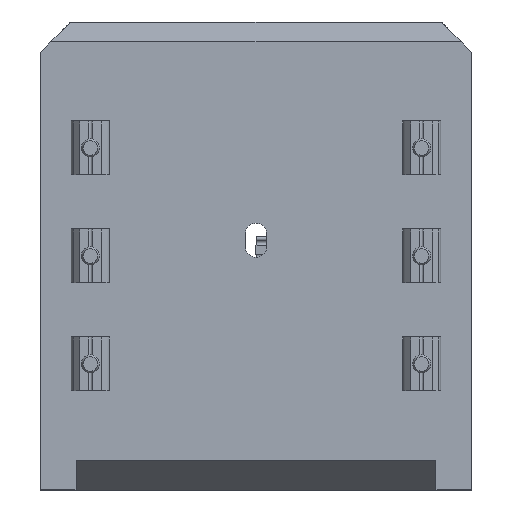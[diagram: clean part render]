
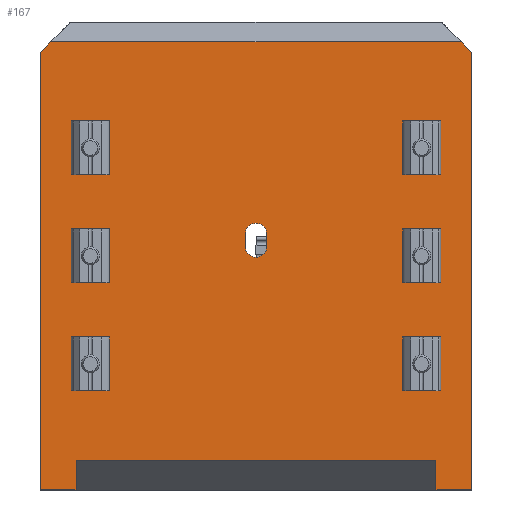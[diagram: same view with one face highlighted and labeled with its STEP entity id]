
A CAD part, top view. The second image highlights one B-rep face of the part: STEP entity #167.
In plain terms, the highlighted planar face has unit normal (0, 0, 1).
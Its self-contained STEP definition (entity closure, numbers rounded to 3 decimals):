
#167 = ADVANCED_FACE( '', ( #377, #378, #379, #380, #381, #382, #383, #384 ), #385, .F. );
#377 = FACE_BOUND( '', #657, .T. );
#378 = FACE_BOUND( '', #658, .T. );
#379 = FACE_BOUND( '', #659, .T. );
#380 = FACE_BOUND( '', #660, .T. );
#381 = FACE_BOUND( '', #661, .T. );
#382 = FACE_BOUND( '', #662, .T. );
#383 = FACE_BOUND( '', #663, .T. );
#384 = FACE_OUTER_BOUND( '', #664, .T. );
#385 = PLANE( '', #665 );
#657 = EDGE_LOOP( '', ( #1080, #1081, #1082, #1083 ) );
#658 = EDGE_LOOP( '', ( #1084 ) );
#659 = EDGE_LOOP( '', ( #1085 ) );
#660 = EDGE_LOOP( '', ( #1086 ) );
#661 = EDGE_LOOP( '', ( #1087 ) );
#662 = EDGE_LOOP( '', ( #1088 ) );
#663 = EDGE_LOOP( '', ( #1089 ) );
#664 = EDGE_LOOP( '', ( #1090, #1091, #1092, #1093, #1094, #1095, #1096, #1097, #1098, #1099 ) );
#665 = AXIS2_PLACEMENT_3D( '', #1100, #1101, #1102 );
#1080 = ORIENTED_EDGE( '', *, *, #1429, .F. );
#1081 = ORIENTED_EDGE( '', *, *, #1345, .F. );
#1082 = ORIENTED_EDGE( '', *, *, #1315, .F. );
#1083 = ORIENTED_EDGE( '', *, *, #1433, .F. );
#1084 = ORIENTED_EDGE( '', *, *, #1416, .F. );
#1085 = ORIENTED_EDGE( '', *, *, #1434, .F. );
#1086 = ORIENTED_EDGE( '', *, *, #1435, .F. );
#1087 = ORIENTED_EDGE( '', *, *, #1410, .F. );
#1088 = ORIENTED_EDGE( '', *, *, #1343, .F. );
#1089 = ORIENTED_EDGE( '', *, *, #1363, .F. );
#1090 = ORIENTED_EDGE( '', *, *, #1378, .T. );
#1091 = ORIENTED_EDGE( '', *, *, #1412, .T. );
#1092 = ORIENTED_EDGE( '', *, *, #1294, .T. );
#1093 = ORIENTED_EDGE( '', *, *, #1436, .F. );
#1094 = ORIENTED_EDGE( '', *, *, #1400, .F. );
#1095 = ORIENTED_EDGE( '', *, *, #1384, .F. );
#1096 = ORIENTED_EDGE( '', *, *, #1329, .T. );
#1097 = ORIENTED_EDGE( '', *, *, #1437, .T. );
#1098 = ORIENTED_EDGE( '', *, *, #1398, .F. );
#1099 = ORIENTED_EDGE( '', *, *, #1438, .F. );
#1100 = CARTESIAN_POINT( '', ( 66.696, -321.5, 10. ) );
#1101 = DIRECTION( '', ( 0., 0., -1. ) );
#1102 = DIRECTION( '', ( 0., 1., 0. ) );
#1294 = EDGE_CURVE( '', #1517, #1518, #1519, .F. );
#1315 = EDGE_CURVE( '', #1555, #1557, #1558, .T. );
#1329 = EDGE_CURVE( '', #1581, #1582, #1583, .T. );
#1343 = EDGE_CURVE( '', #1604, #1604, #1605, .F. );
#1345 = EDGE_CURVE( '', #1557, #1607, #1608, .F. );
#1363 = EDGE_CURVE( '', #1636, #1636, #1637, .F. );
#1378 = EDGE_CURVE( '', #1660, #1661, #1662, .F. );
#1384 = EDGE_CURVE( '', #1581, #1669, #1670, .T. );
#1398 = EDGE_CURVE( '', #1689, #1691, #1692, .T. );
#1400 = EDGE_CURVE( '', #1669, #1694, #1695, .T. );
#1410 = EDGE_CURVE( '', #1709, #1709, #1710, .F. );
#1412 = EDGE_CURVE( '', #1661, #1517, #1712, .T. );
#1416 = EDGE_CURVE( '', #1717, #1717, #1718, .F. );
#1429 = EDGE_CURVE( '', #1607, #1737, #1738, .T. );
#1433 = EDGE_CURVE( '', #1737, #1555, #1742, .F. );
#1434 = EDGE_CURVE( '', #1743, #1743, #1744, .F. );
#1435 = EDGE_CURVE( '', #1745, #1745, #1746, .F. );
#1436 = EDGE_CURVE( '', #1694, #1518, #1747, .T. );
#1437 = EDGE_CURVE( '', #1582, #1691, #1748, .T. );
#1438 = EDGE_CURVE( '', #1660, #1689, #1749, .T. );
#1517 = VERTEX_POINT( '', #1983 );
#1518 = VERTEX_POINT( '', #1984 );
#1519 = LINE( '', #1985, #1986 );
#1555 = VERTEX_POINT( '', #2063 );
#1557 = VERTEX_POINT( '', #2066 );
#1558 = LINE( '', #2067, #2068 );
#1581 = VERTEX_POINT( '', #2097 );
#1582 = VERTEX_POINT( '', #2098 );
#1583 = LINE( '', #2099, #2100 );
#1604 = VERTEX_POINT( '', #2127 );
#1605 = CIRCLE( '', #2128, 2.6 );
#1607 = VERTEX_POINT( '', #2130 );
#1608 = CIRCLE( '', #2131, 3. );
#1636 = VERTEX_POINT( '', #2167 );
#1637 = CIRCLE( '', #2168, 2.6 );
#1660 = VERTEX_POINT( '', #2200 );
#1661 = VERTEX_POINT( '', #2201 );
#1662 = LINE( '', #2202, #2203 );
#1669 = VERTEX_POINT( '', #2214 );
#1670 = LINE( '', #2215, #2216 );
#1689 = VERTEX_POINT( '', #2237 );
#1691 = VERTEX_POINT( '', #2240 );
#1692 = LINE( '', #2241, #2242 );
#1694 = VERTEX_POINT( '', #2245 );
#1695 = LINE( '', #2246, #2247 );
#1709 = VERTEX_POINT( '', #2265 );
#1710 = CIRCLE( '', #2266, 2.6 );
#1712 = LINE( '', #2268, #2269 );
#1717 = VERTEX_POINT( '', #2274 );
#1718 = CIRCLE( '', #2275, 2.6 );
#1737 = VERTEX_POINT( '', #2297 );
#1738 = LINE( '', #2298, #2299 );
#1742 = CIRCLE( '', #2305, 3. );
#1743 = VERTEX_POINT( '', #2306 );
#1744 = CIRCLE( '', #2307, 2.6 );
#1745 = VERTEX_POINT( '', #2308 );
#1746 = CIRCLE( '', #2309, 2.6 );
#1747 = LINE( '', #2310, #2311 );
#1748 = LINE( '', #2312, #2313 );
#1749 = LINE( '', #2314, #2315 );
#1983 = CARTESIAN_POINT( '', ( -57., 59.5, 10. ) );
#1984 = CARTESIAN_POINT( '', ( -60., 56.5, 10. ) );
#1985 = CARTESIAN_POINT( '', ( -60., 56.5, 10. ) );
#1986 = VECTOR( '', #2412, 1000. );
#2063 = CARTESIAN_POINT( '', ( -3., 6.1, 10. ) );
#2066 = CARTESIAN_POINT( '', ( -3., 2.6, 10. ) );
#2067 = CARTESIAN_POINT( '', ( -3., 2.6, 10. ) );
#2068 = VECTOR( '', #2440, 1000. );
#2097 = CARTESIAN_POINT( '', ( -50., -56.819, 10. ) );
#2098 = CARTESIAN_POINT( '', ( 50., -56.819, 10. ) );
#2099 = CARTESIAN_POINT( '', ( 50., -56.819, 10. ) );
#2100 = VECTOR( '', #2459, 1000. );
#2127 = CARTESIAN_POINT( '', ( 46., -27.4, 10. ) );
#2128 = AXIS2_PLACEMENT_3D( '', #2475, #2476, #2477 );
#2130 = CARTESIAN_POINT( '', ( 3., 2.6, 10. ) );
#2131 = AXIS2_PLACEMENT_3D( '', #2478, #2479, #2480 );
#2167 = CARTESIAN_POINT( '', ( 46., 32.6, 10. ) );
#2168 = AXIS2_PLACEMENT_3D( '', #2501, #2502, #2503 );
#2200 = CARTESIAN_POINT( '', ( 60., 56.5, 10. ) );
#2201 = CARTESIAN_POINT( '', ( 57., 59.5, 10. ) );
#2202 = CARTESIAN_POINT( '', ( 51.5, 65., 10. ) );
#2203 = VECTOR( '', #2516, 1000. );
#2214 = CARTESIAN_POINT( '', ( -50., -65., 10. ) );
#2215 = CARTESIAN_POINT( '', ( -50., -65., 10. ) );
#2216 = VECTOR( '', #2521, 1000. );
#2237 = CARTESIAN_POINT( '', ( 60., -65., 10. ) );
#2240 = CARTESIAN_POINT( '', ( 50., -65., 10. ) );
#2241 = CARTESIAN_POINT( '', ( -60., -65., 10. ) );
#2242 = VECTOR( '', #2543, 1000. );
#2245 = CARTESIAN_POINT( '', ( -60., -65., 10. ) );
#2246 = CARTESIAN_POINT( '', ( -60., -65., 10. ) );
#2247 = VECTOR( '', #2545, 1000. );
#2265 = CARTESIAN_POINT( '', ( 46., 2.6, 10. ) );
#2266 = AXIS2_PLACEMENT_3D( '', #2556, #2557, #2558 );
#2268 = CARTESIAN_POINT( '', ( 66.696, 59.5, 10. ) );
#2269 = VECTOR( '', #2559, 1000. );
#2274 = CARTESIAN_POINT( '', ( -46., 2.6, 10. ) );
#2275 = AXIS2_PLACEMENT_3D( '', #2563, #2564, #2565 );
#2297 = CARTESIAN_POINT( '', ( 3., 6.1, 10. ) );
#2298 = CARTESIAN_POINT( '', ( 3., 2.6, 10. ) );
#2299 = VECTOR( '', #2587, 1000. );
#2305 = AXIS2_PLACEMENT_3D( '', #2590, #2591, #2592 );
#2306 = CARTESIAN_POINT( '', ( -46., -27.4, 10. ) );
#2307 = AXIS2_PLACEMENT_3D( '', #2593, #2594, #2595 );
#2308 = CARTESIAN_POINT( '', ( -46., 32.6, 10. ) );
#2309 = AXIS2_PLACEMENT_3D( '', #2596, #2597, #2598 );
#2310 = CARTESIAN_POINT( '', ( -60., 65., 10. ) );
#2311 = VECTOR( '', #2599, 1000. );
#2312 = CARTESIAN_POINT( '', ( 50., -65., 10. ) );
#2313 = VECTOR( '', #2600, 1000. );
#2314 = CARTESIAN_POINT( '', ( 60., -65., 10. ) );
#2315 = VECTOR( '', #2601, 1000. );
#2412 = DIRECTION( '', ( 0.707, 0.707, 0. ) );
#2440 = DIRECTION( '', ( 0., -1., 0. ) );
#2459 = DIRECTION( '', ( 1., 0., 0. ) );
#2475 = CARTESIAN_POINT( '', ( 46., -30., 10. ) );
#2476 = DIRECTION( '', ( 0., 0., -1. ) );
#2477 = DIRECTION( '', ( 0., 1., 0. ) );
#2478 = CARTESIAN_POINT( '', ( 0., 2.6, 10. ) );
#2479 = DIRECTION( '', ( 0., 0., -1. ) );
#2480 = DIRECTION( '', ( 0., 1., 0. ) );
#2501 = CARTESIAN_POINT( '', ( 46., 30., 10. ) );
#2502 = DIRECTION( '', ( 0., 0., -1. ) );
#2503 = DIRECTION( '', ( 0., 1., 0. ) );
#2516 = DIRECTION( '', ( 0.707, -0.707, 0. ) );
#2521 = DIRECTION( '', ( 0., -1., 0. ) );
#2543 = DIRECTION( '', ( -1., 0., 0. ) );
#2545 = DIRECTION( '', ( -1., 0., 0. ) );
#2556 = CARTESIAN_POINT( '', ( 46., 0., 10. ) );
#2557 = DIRECTION( '', ( 0., 0., -1. ) );
#2558 = DIRECTION( '', ( 0., 1., 0. ) );
#2559 = DIRECTION( '', ( -1., 0., 0. ) );
#2563 = CARTESIAN_POINT( '', ( -46., 0., 10. ) );
#2564 = DIRECTION( '', ( 0., 0., -1. ) );
#2565 = DIRECTION( '', ( 0., 1., 0. ) );
#2587 = DIRECTION( '', ( 0., 1., 0. ) );
#2590 = CARTESIAN_POINT( '', ( 0., 6.1, 10. ) );
#2591 = DIRECTION( '', ( 0., 0., -1. ) );
#2592 = DIRECTION( '', ( 0., 1., 0. ) );
#2593 = CARTESIAN_POINT( '', ( -46., -30., 10. ) );
#2594 = DIRECTION( '', ( 0., 0., -1. ) );
#2595 = DIRECTION( '', ( 0., 1., 0. ) );
#2596 = CARTESIAN_POINT( '', ( -46., 30., 10. ) );
#2597 = DIRECTION( '', ( 0., 0., -1. ) );
#2598 = DIRECTION( '', ( 0., 1., 0. ) );
#2599 = DIRECTION( '', ( 0., 1., 0. ) );
#2600 = DIRECTION( '', ( 0., -1., 0. ) );
#2601 = DIRECTION( '', ( 0., -1., 0. ) );
